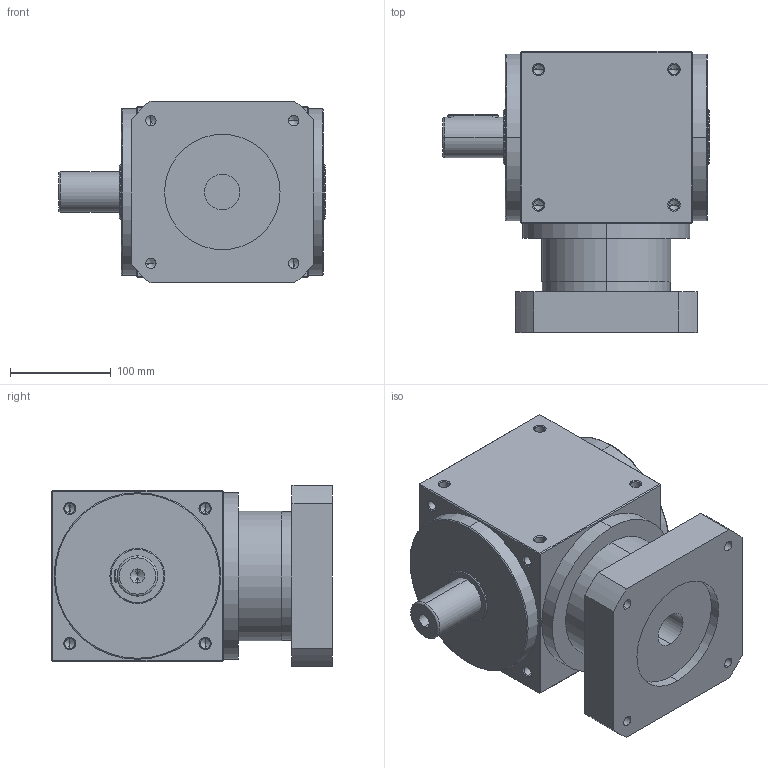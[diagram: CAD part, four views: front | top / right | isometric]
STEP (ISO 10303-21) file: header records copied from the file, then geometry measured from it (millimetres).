
FILE_DESCRIPTION (( 'STEP AP214' ), '1' );
FILE_NAME ('AT170-FL1-001-35-114.3-200-M12.STEP', '2021-03-22T02:34:50', ( 'User' ), ( 'Far123' ), 'SwSTEP 2.0', 'SolidWorks 2015', '' );
FILE_SCHEMA (( 'AUTOMOTIVE_DESIGN' ));
Length unit declared in the file: millimetre
Products named in the file (1): AT170-FL1-001-35-114.3-200-M12
Bounding box: 264 x 278 x 180 mm (x, y, z)
Volume: 7679475.8 mm3; surface area: 320733.4 mm2
Topology: 1 solids, 1 shells, 264 faces, 654 edges, 355 vertices
Faces by surface type: cylinder 116, cone 96, plane 46, torus 6
Entity records: 8444 total; most frequent: CARTESIAN_POINT 1644, DIRECTION 1228, ORIENTED_EDGE 1208, EDGE_CURVE 604, AXIS2_PLACEMENT_3D 473, VERTEX_POINT 355, EDGE_LOOP 301, VECTOR 282
